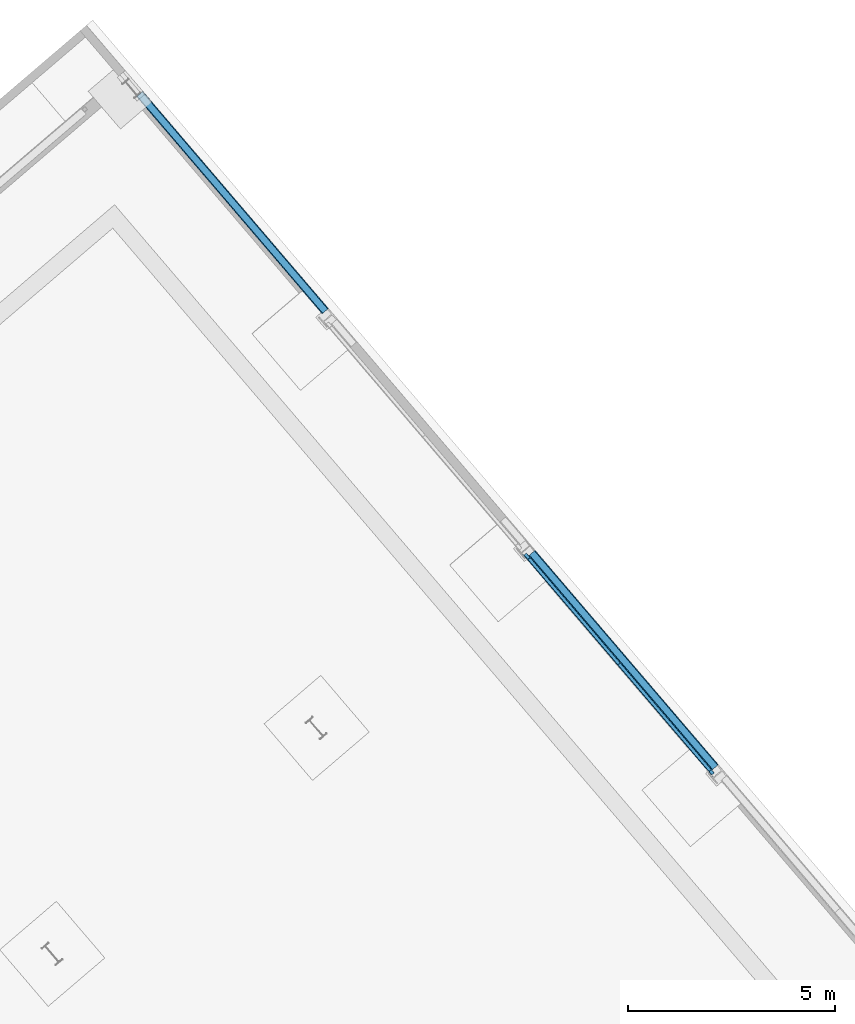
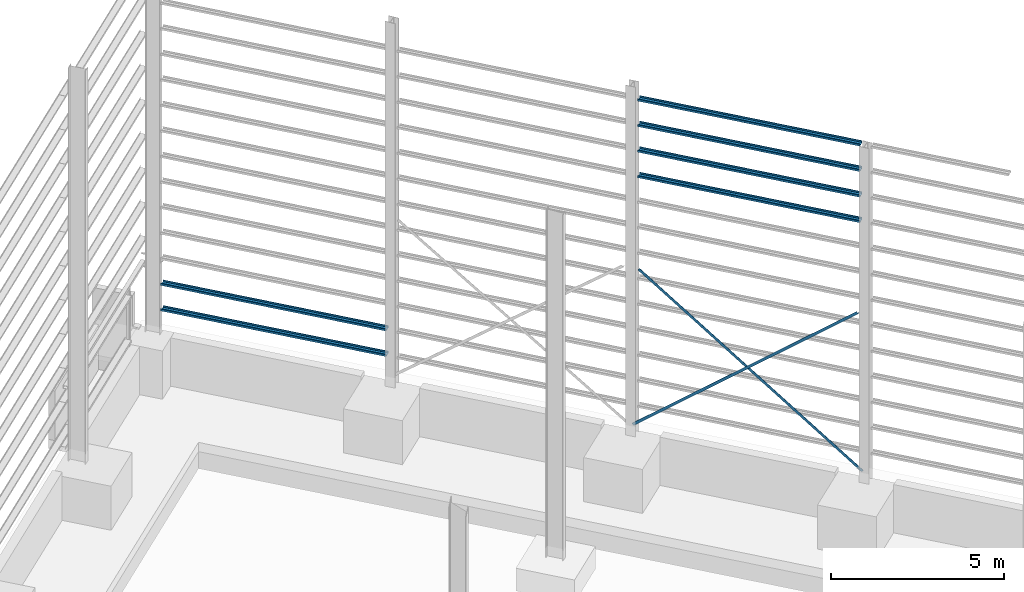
# One storey, part 31 of 41: 8 beams, 2 elements without a shape of their own.
"""IFC2X3 building model written with IfcOpenShell, lengths in millimetres."""

from ifc_helpers import new_model, entity, si_unit, converted_unit, derived_unit, direction, frame, frame_2d, origin, place, context, subcontext, project, spatial, polyline, circle_curve, parameter, trimmed, segment, composite_curve, outline, extrude, material, type_object, element, aggregate, save


model = new_model("IFC2X3")

# Units and contexts
model_context = context("Model", 3, precision=0.01, world=origin(), true_north=direction((6.123031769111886e-17, 1.0)))
body_context = subcontext(model_context, "Body", "Model", "MODEL_VIEW")
ifc_project = project(units=[si_unit("LENGTHUNIT", "METRE", prefix="MILLI"), si_unit("AREAUNIT", "SQUARE_METRE"), si_unit("VOLUMEUNIT", "CUBIC_METRE"), converted_unit("PLANEANGLEUNIT", "DEGREE", entity("IfcRatioMeasure", 0.017453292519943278), si_unit("PLANEANGLEUNIT", "RADIAN"), dimensions=[0, 0, 0, 0, 0, 0, 0]), si_unit("MASSUNIT", "GRAM", prefix="KILO"), derived_unit("MASSDENSITYUNIT", [(si_unit("MASSUNIT", "GRAM", prefix="KILO"), 1), (si_unit("LENGTHUNIT", "METRE"), -3)]), derived_unit("MOMENTOFINERTIAUNIT", [(si_unit("LENGTHUNIT", "METRE"), 4)]), si_unit("TIMEUNIT", "SECOND"), si_unit("FREQUENCYUNIT", "HERTZ"), si_unit("THERMODYNAMICTEMPERATUREUNIT", "DEGREE_CELSIUS"), derived_unit("THERMALTRANSMITTANCEUNIT", [(si_unit("MASSUNIT", "GRAM", prefix="KILO"), 1), (si_unit("THERMODYNAMICTEMPERATUREUNIT", "KELVIN"), -1), (si_unit("TIMEUNIT", "SECOND"), -3)]), derived_unit("VOLUMETRICFLOWRATEUNIT", [(si_unit("LENGTHUNIT", "METRE"), 3), (si_unit("TIMEUNIT", "SECOND"), -1)]), derived_unit("MASSFLOWRATEUNIT", [(si_unit("MASSUNIT", "GRAM", prefix="KILO"), 1), (si_unit("TIMEUNIT", "SECOND"), -1)]), derived_unit("ROTATIONALFREQUENCYUNIT", [(si_unit("TIMEUNIT", "SECOND"), -1)]), si_unit("ELECTRICCURRENTUNIT", "AMPERE"), si_unit("ELECTRICVOLTAGEUNIT", "VOLT"), si_unit("POWERUNIT", "WATT"), si_unit("FORCEUNIT", "NEWTON", prefix="KILO"), si_unit("ILLUMINANCEUNIT", "LUX"), si_unit("LUMINOUSFLUXUNIT", "LUMEN"), si_unit("LUMINOUSINTENSITYUNIT", "CANDELA"), derived_unit("USERDEFINED", [(si_unit("MASSUNIT", "GRAM", prefix="KILO"), -1), (si_unit("LENGTHUNIT", "METRE"), -2), (si_unit("TIMEUNIT", "SECOND"), 3), (si_unit("LUMINOUSFLUXUNIT", "LUMEN"), 1)]), derived_unit("SOUNDPOWERUNIT", [(si_unit("MASSUNIT", "GRAM", prefix="KILO"), 1), (si_unit("LENGTHUNIT", "METRE"), 2), (si_unit("TIMEUNIT", "SECOND"), -3)]), derived_unit("LINEARVELOCITYUNIT", [(si_unit("LENGTHUNIT", "METRE"), 1), (si_unit("TIMEUNIT", "SECOND"), -1)]), si_unit("PRESSUREUNIT", "PASCAL"), derived_unit("USERDEFINED", [(si_unit("LENGTHUNIT", "METRE"), -2), (si_unit("MASSUNIT", "GRAM", prefix="KILO"), 1), (si_unit("TIMEUNIT", "SECOND"), -2)]), derived_unit("LINEARFORCEUNIT", [(si_unit("MASSUNIT", "GRAM", prefix="KILO"), 1), (si_unit("LENGTHUNIT", "METRE"), 1), (si_unit("TIMEUNIT", "SECOND"), -2), (si_unit("LENGTHUNIT", "METRE"), -1)]), derived_unit("PLANARFORCEUNIT", [(si_unit("MASSUNIT", "GRAM", prefix="KILO"), 1), (si_unit("LENGTHUNIT", "METRE"), 1), (si_unit("TIMEUNIT", "SECOND"), -2), (si_unit("LENGTHUNIT", "METRE"), -2)])], contexts=[model_context])

# Site, building, storey
site_placement = place(None, frame((962.4174930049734, -6014.433753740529, 0.0), z_axis=(0.0, 0.0, 1.0), x_axis=(0.7601792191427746, 0.649713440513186, 0.0)))
site = spatial("IfcSite", under=ifc_project, at=site_placement, Name="Default", CompositionType="ELEMENT")
building_placement = place(site_placement, origin())
building = spatial("IfcBuilding", under=site, at=building_placement, CompositionType="ELEMENT")
storey_placement = place(building_placement, origin())
storey = spatial("IfcBuildingStorey", under=building, at=storey_placement, Name="Datum", CompositionType="ELEMENT", Elevation=0.0)

# Beams
ifc_material_1 = material(Name="Metal - Steel - 300 MPa")
beam_type_1 = type_object("IfcBeamType", Name="ADSK_AU_EA-Equal Angles (AS 3679_1):90x90x10EA", PredefinedType="NOTDEFINED")
beam_1_placement = place(storey_placement, frame((185683.36020470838, -18131.098902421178, 5622.635786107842), z_axis=(0.0, 0.6272703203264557, 0.7788016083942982), x_axis=(0.0, 0.7788016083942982, -0.6272703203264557)))
element("IfcBeam", 1, at=beam_1_placement, inside=storey, type_object=beam_type_1, material=ifc_material_1, Name="ADSK_AU_EA-Equal Angles (AS 3679_1):90x90x10EA", ObjectType="ADSK_AU_EA-Equal Angles (AS 3679_1):90x90x10EA", context=body_context, shape_type="SweptSolid", body=[
    extrude(outline(composite_curve([segment(polyline([(29.222222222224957, -55.777777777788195), (34.22222222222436, -55.777777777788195)]), True, "CONTINUOUS"), segment(polyline([(34.22222222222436, -55.777777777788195), (34.22222222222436, 34.222222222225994)]), True, "CONTINUOUS"), segment(polyline([(34.22222222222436, 34.222222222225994), (-55.777777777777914, 34.222222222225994)]), True, "CONTINUOUS"), segment(polyline([(-55.77777777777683, 34.222222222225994), (-55.777777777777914, 29.2222222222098)]), True, "CONTINUOUS"), segment(trimmed(circle_curve(frame_2d((-50.77777777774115, 29.222222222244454), x_axis=(-1.0, 0.0)), 5.000000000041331), [parameter(0.0)], [parameter(89.99999999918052)], True, "PARAMETER"), True, "CONTINUOUS"), segment(polyline([(-50.77777777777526, 24.222222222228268), (16.2222222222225, 24.222222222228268)]), True, "CONTINUOUS"), segment(trimmed(circle_curve(frame_2d((16.22222222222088, 16.222222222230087), x_axis=(0.0, 1.0)), 8.000000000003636), [parameter(270.0000000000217)], [parameter(0.0)], True, "PARAMETER"), False, "CONTINUOUS"), segment(polyline([(24.222222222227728, 16.222222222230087), (24.222222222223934, -50.77777777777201)]), True, "CONTINUOUS"), segment(trimmed(circle_curve(frame_2d((29.222222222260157, -50.77777777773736), x_axis=(-1.0, 0.0)), 5.000000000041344), [parameter(0.0)], [parameter(89.99999999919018)], True, "PARAMETER"), True, "CONTINUOUS")], self_intersect=False)), frame((0.0, -8.522222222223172, -55.777777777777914), z_axis=(1.0, 0.0, 0.0), x_axis=(0.0, 0.0, -1.0)), (0.0, 0.0, 1.0), 8833.2),
])
beam_2_placement = place(storey_placement, frame((185683.36020470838, -11489.283445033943, 5597.543005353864), z_axis=(0.0, -0.6270766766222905, 0.7789575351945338), x_axis=(0.0, -0.7789575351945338, -0.6270766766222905)))
element("IfcBeam", 2, at=beam_2_placement, inside=storey, type_object=beam_type_1, material=ifc_material_1, Name="ADSK_AU_EA-Equal Angles (AS 3679_1):90x90x10EA", ObjectType="ADSK_AU_EA-Equal Angles (AS 3679_1):90x90x10EA", context=body_context, shape_type="SweptSolid", body=[
    extrude(outline(composite_curve([segment(polyline([(-55.77777777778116, -34.222222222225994), (34.22222222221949, -34.222222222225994)]), True, "CONTINUOUS"), segment(polyline([(34.22222222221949, -34.222222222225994), (34.22222222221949, 55.777777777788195)]), True, "CONTINUOUS"), segment(polyline([(34.22222222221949, 55.777777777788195), (29.22222222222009, 55.777777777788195)]), True, "CONTINUOUS"), segment(trimmed(circle_curve(frame_2d((29.22222222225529, 50.77777777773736), x_axis=(0.0, 1.0)), 5.000000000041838), [parameter(0.0)], [parameter(89.99999999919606)], True, "PARAMETER"), True, "CONTINUOUS"), segment(polyline([(24.222222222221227, 50.77777777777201), (24.222222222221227, -16.222222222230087)]), True, "CONTINUOUS"), segment(trimmed(circle_curve(frame_2d((16.222222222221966, -16.222222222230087), x_axis=(1.0, 0.0)), 7.99999999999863), [parameter(269.99999999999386)], [parameter(0.0)], True, "PARAMETER"), False, "CONTINUOUS"), segment(polyline([(16.222222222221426, -24.222222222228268), (-50.77777777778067, -24.222222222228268)]), True, "CONTINUOUS"), segment(trimmed(circle_curve(frame_2d((-50.77777777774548, -29.222222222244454), x_axis=(0.0, 1.0)), 5.00000000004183), [parameter(0.0)], [parameter(89.99999999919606)], True, "PARAMETER"), True, "CONTINUOUS"), segment(polyline([(-55.77777777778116, -29.2222222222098), (-55.77777777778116, -34.222222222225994)]), True, "CONTINUOUS")], self_intersect=False)), frame((11.728956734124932, 8.522222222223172, -55.7777777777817), z_axis=(1.0, 0.0, 0.0), x_axis=(0.0, 0.0, -1.0)), (0.0, 0.0, 1.0), 8786.271043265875),
])

# Assembly, beams
assembly_1_placement = place(building_placement, origin())
assembly_1 = element("IfcElementAssembly", 3, at=assembly_1_placement, inside=storey, Name="Structural Beam System:Structural Beam System 1", ObjectType="Structural Beam System:Structural Beam System 1", AssemblyPlace="NOTDEFINED", PredefinedType="BEAM_GRID")
ifc_material_2 = material(Name="Metal - Light Gauge")
beam_type_2 = type_object("IfcBeamType", Name="ADSK_AUS_Light Gauge-Joists:C20015", PredefinedType="NOTDEFINED")
beam_3_placement = place(building_placement, frame((185748.56020470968, -18217.31558212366, 11405.616355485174), z_axis=(0.0, 0.0, 1.0), x_axis=(0.0, 1.0, 0.0)))
beam_3 = element("IfcBeam", 4, at=beam_3_placement, type_object=beam_type_2, material=ifc_material_2, Name="ADSK_AUS_Light Gauge-Joists:C20015", ObjectType="ADSK_AUS_Light Gauge-Joists:C20015", context=body_context, shape_type="SweptSolid", body=[
    extrude(outline(composite_curve([segment(polyline([(-25.691849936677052, -101.50000000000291), (39.491849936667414, -101.50000000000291)]), True, "CONTINUOUS"), segment(trimmed(circle_curve(frame_2d((39.4918499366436, -98.8418499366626), x_axis=(0.0, -1.0)), 2.6581500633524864), [parameter(0.0)], [parameter(89.99999999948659)], True, "PARAMETER"), True, "CONTINUOUS"), segment(polyline([(42.149999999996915, -98.8418499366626), (42.149999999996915, 98.84184993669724)]), True, "CONTINUOUS"), segment(trimmed(circle_curve(frame_2d((39.4918499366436, 98.84184993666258), x_axis=(1.0, 0.0)), 2.6581500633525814), [parameter(0.0)], [parameter(89.99999999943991)], True, "PARAMETER"), True, "CONTINUOUS"), segment(polyline([(39.49184993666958, 101.50000000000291), (-25.691849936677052, 101.50000000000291)]), True, "CONTINUOUS"), segment(trimmed(circle_curve(frame_2d((-25.69184993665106, 98.84184993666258), x_axis=(0.0, 1.0)), 2.6581500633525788), [parameter(0.0)], [parameter(89.99999999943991)], True, "PARAMETER"), True, "CONTINUOUS"), segment(polyline([(-28.35000000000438, 98.84184993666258), (-28.35000000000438, 80.0)]), True, "CONTINUOUS"), segment(polyline([(-28.35000000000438, 80.0), (-26.85000000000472, 80.0)]), True, "CONTINUOUS"), segment(polyline([(-26.85000000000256, 80.0), (-26.85000000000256, 98.42934993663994)]), True, "CONTINUOUS"), segment(trimmed(circle_curve(frame_2d((-25.279349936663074, 98.4293499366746), x_axis=(-1.0, 0.0)), 1.5706500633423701), [parameter(270.00000000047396)], [parameter(0.0)], True, "PARAMETER"), False, "CONTINUOUS"), segment(polyline([(-25.279349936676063, 100.0), (39.07934993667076, 100.0)]), True, "CONTINUOUS"), segment(trimmed(circle_curve(frame_2d((39.079349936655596, 98.4293499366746), x_axis=(0.0, 1.0)), 1.5706500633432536), [parameter(270.0000000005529)], [parameter(0.0)], True, "PARAMETER"), False, "CONTINUOUS"), segment(polyline([(40.649999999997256, 98.4293499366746), (40.649999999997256, -98.4293499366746)]), True, "CONTINUOUS"), segment(trimmed(circle_curve(frame_2d((39.079349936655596, -98.4293499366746), x_axis=(1.0, 0.0)), 1.5706500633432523), [parameter(270.0000000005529)], [parameter(0.0)], True, "PARAMETER"), False, "CONTINUOUS"), segment(polyline([(39.07934993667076, -100.0), (-25.279349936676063, -100.0)]), True, "CONTINUOUS"), segment(trimmed(circle_curve(frame_2d((-25.2793499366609, -98.4293499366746), x_axis=(0.0, -1.0)), 1.570650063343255), [parameter(270.0000000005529)], [parameter(0.0)], True, "PARAMETER"), False, "CONTINUOUS"), segment(polyline([(-26.85000000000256, -98.4293499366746), (-26.85000000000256, -80.0)]), True, "CONTINUOUS"), segment(polyline([(-26.85000000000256, -80.0), (-28.35000000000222, -80.0)]), True, "CONTINUOUS"), segment(polyline([(-28.35000000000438, -80.0), (-28.35000000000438, -98.84184993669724)]), True, "CONTINUOUS"), segment(trimmed(circle_curve(frame_2d((-25.691849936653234, -98.8418499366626), x_axis=(-1.0, 0.0)), 2.658150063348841), [parameter(0.0)], [parameter(89.99999999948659)], True, "PARAMETER"), True, "CONTINUOUS")], self_intersect=False)), frame((12.943749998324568, -101.50000000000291, 42.149999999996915), z_axis=(1.0, 0.0, 0.0), x_axis=(0.0, 0.0, -1.0)), (0.0, 0.0, 1.0), 6816.000000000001),
])
beam_4_placement = place(building_placement, frame((185748.56020470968, -18217.31558212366, 10505.616355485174), z_axis=(0.0, 0.0, 1.0), x_axis=(0.0, 1.0, 0.0)))
beam_4 = element("IfcBeam", 5, at=beam_4_placement, type_object=beam_type_2, material=ifc_material_2, Name="ADSK_AUS_Light Gauge-Joists:C20015", ObjectType="ADSK_AUS_Light Gauge-Joists:C20015", context=body_context, shape_type="SweptSolid", body=[
    extrude(outline(composite_curve([segment(polyline([(-25.691849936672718, -101.50000000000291), (39.49184993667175, -101.50000000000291)]), True, "CONTINUOUS"), segment(trimmed(circle_curve(frame_2d((39.49184993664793, -98.8418499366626), x_axis=(0.0, -1.0)), 2.6581500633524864), [parameter(0.0)], [parameter(89.99999999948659)], True, "PARAMETER"), True, "CONTINUOUS"), segment(polyline([(42.15000000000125, -98.8418499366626), (42.15000000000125, 98.84184993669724)]), True, "CONTINUOUS"), segment(trimmed(circle_curve(frame_2d((39.49184993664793, 98.84184993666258), x_axis=(1.0, 0.0)), 2.6581500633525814), [parameter(0.0)], [parameter(89.99999999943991)], True, "PARAMETER"), True, "CONTINUOUS"), segment(polyline([(39.491849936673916, 101.50000000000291), (-25.691849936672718, 101.50000000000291)]), True, "CONTINUOUS"), segment(trimmed(circle_curve(frame_2d((-25.691849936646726, 98.84184993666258), x_axis=(0.0, 1.0)), 2.6581500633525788), [parameter(0.0)], [parameter(89.99999999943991)], True, "PARAMETER"), True, "CONTINUOUS"), segment(polyline([(-28.350000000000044, 98.84184993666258), (-28.350000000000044, 80.0)]), True, "CONTINUOUS"), segment(polyline([(-28.350000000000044, 80.0), (-26.850000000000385, 80.0)]), True, "CONTINUOUS"), segment(polyline([(-26.849999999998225, 80.0), (-26.849999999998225, 98.42934993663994)]), True, "CONTINUOUS"), segment(trimmed(circle_curve(frame_2d((-25.27934993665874, 98.4293499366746), x_axis=(-1.0, 0.0)), 1.5706500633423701), [parameter(270.00000000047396)], [parameter(0.0)], True, "PARAMETER"), False, "CONTINUOUS"), segment(polyline([(-25.27934993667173, 100.0), (39.079349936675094, 100.0)]), True, "CONTINUOUS"), segment(trimmed(circle_curve(frame_2d((39.07934993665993, 98.4293499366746), x_axis=(0.0, 1.0)), 1.5706500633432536), [parameter(270.0000000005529)], [parameter(0.0)], True, "PARAMETER"), False, "CONTINUOUS"), segment(polyline([(40.65000000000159, 98.4293499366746), (40.65000000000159, -98.4293499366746)]), True, "CONTINUOUS"), segment(trimmed(circle_curve(frame_2d((39.07934993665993, -98.4293499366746), x_axis=(1.0, 0.0)), 1.5706500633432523), [parameter(270.0000000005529)], [parameter(0.0)], True, "PARAMETER"), False, "CONTINUOUS"), segment(polyline([(39.079349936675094, -100.0), (-25.27934993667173, -100.0)]), True, "CONTINUOUS"), segment(trimmed(circle_curve(frame_2d((-25.279349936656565, -98.4293499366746), x_axis=(0.0, -1.0)), 1.570650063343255), [parameter(270.0000000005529)], [parameter(0.0)], True, "PARAMETER"), False, "CONTINUOUS"), segment(polyline([(-26.849999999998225, -98.4293499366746), (-26.849999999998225, -80.0)]), True, "CONTINUOUS"), segment(polyline([(-26.849999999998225, -80.0), (-28.349999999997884, -80.0)]), True, "CONTINUOUS"), segment(polyline([(-28.350000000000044, -80.0), (-28.350000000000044, -98.84184993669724)]), True, "CONTINUOUS"), segment(trimmed(circle_curve(frame_2d((-25.6918499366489, -98.8418499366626), x_axis=(-1.0, 0.0)), 2.658150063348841), [parameter(0.0)], [parameter(89.99999999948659)], True, "PARAMETER"), True, "CONTINUOUS")], self_intersect=False)), frame((12.943749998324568, -101.50000000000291, 42.15000000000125), z_axis=(1.0, 0.0, 0.0), x_axis=(0.0, 0.0, -1.0)), (0.0, 0.0, 1.0), 6816.000000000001),
])
beam_5_placement = place(building_placement, frame((185748.56020470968, -18217.31558212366, 9605.616355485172), z_axis=(0.0, 0.0, 1.0), x_axis=(0.0, 1.0, 0.0)))
beam_5 = element("IfcBeam", 6, at=beam_5_placement, type_object=beam_type_2, material=ifc_material_2, Name="ADSK_AUS_Light Gauge-Joists:C20015", ObjectType="ADSK_AUS_Light Gauge-Joists:C20015", context=body_context, shape_type="SweptSolid", body=[
    extrude(outline(composite_curve([segment(polyline([(-25.691849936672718, -101.50000000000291), (39.49184993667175, -101.50000000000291)]), True, "CONTINUOUS"), segment(trimmed(circle_curve(frame_2d((39.49184993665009, -98.8418499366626), x_axis=(0.0, -1.0)), 2.658150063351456), [parameter(0.0)], [parameter(89.99999999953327)], True, "PARAMETER"), True, "CONTINUOUS"), segment(polyline([(42.15000000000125, -98.8418499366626), (42.15000000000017, 98.84184993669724)]), True, "CONTINUOUS"), segment(trimmed(circle_curve(frame_2d((39.49184993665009, 98.84184993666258), x_axis=(1.0, 0.0)), 2.658150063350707), [parameter(0.0)], [parameter(89.99999999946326)], True, "PARAMETER"), True, "CONTINUOUS"), segment(polyline([(39.491849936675, 101.50000000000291), (-25.691849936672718, 101.50000000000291)]), True, "CONTINUOUS"), segment(trimmed(circle_curve(frame_2d((-25.691849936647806, 98.84184993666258), x_axis=(0.0, 1.0)), 2.658150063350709), [parameter(0.0)], [parameter(89.99999999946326)], True, "PARAMETER"), True, "CONTINUOUS"), segment(polyline([(-28.349999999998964, 98.84184993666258), (-28.349999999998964, 80.0)]), True, "CONTINUOUS"), segment(polyline([(-28.349999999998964, 80.0), (-26.849999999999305, 80.0)]), True, "CONTINUOUS"), segment(polyline([(-26.849999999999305, 80.0), (-26.849999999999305, 98.42934993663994)]), True, "CONTINUOUS"), segment(trimmed(circle_curve(frame_2d((-25.2793499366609, 98.4293499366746), x_axis=(-1.0, 0.0)), 1.570650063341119), [parameter(270.00000000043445)], [parameter(0.0)], True, "PARAMETER"), False, "CONTINUOUS"), segment(polyline([(-25.27934993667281, 100.0), (39.079349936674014, 100.0)]), True, "CONTINUOUS"), segment(trimmed(circle_curve(frame_2d((39.079349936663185, 98.4293499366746), x_axis=(0.0, 1.0)), 1.570650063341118), [parameter(270.00000000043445)], [parameter(0.0)], True, "PARAMETER"), False, "CONTINUOUS"), segment(polyline([(40.65000000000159, 98.4293499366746), (40.65000000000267, -98.4293499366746)]), True, "CONTINUOUS"), segment(trimmed(circle_curve(frame_2d((39.079349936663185, -98.4293499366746), x_axis=(1.0, 0.0)), 1.570650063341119), [parameter(270.00000000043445)], [parameter(0.0)], True, "PARAMETER"), False, "CONTINUOUS"), segment(polyline([(39.079349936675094, -100.0), (-25.27934993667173, -100.0)]), True, "CONTINUOUS"), segment(trimmed(circle_curve(frame_2d((-25.2793499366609, -98.4293499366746), x_axis=(0.0, -1.0)), 1.570650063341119), [parameter(270.00000000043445)], [parameter(0.0)], True, "PARAMETER"), False, "CONTINUOUS"), segment(polyline([(-26.849999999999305, -98.4293499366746), (-26.849999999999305, -80.0)]), True, "CONTINUOUS"), segment(polyline([(-26.849999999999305, -80.0), (-28.349999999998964, -80.0)]), True, "CONTINUOUS"), segment(polyline([(-28.349999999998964, -80.0), (-28.349999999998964, -98.84184993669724)]), True, "CONTINUOUS"), segment(trimmed(circle_curve(frame_2d((-25.691849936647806, -98.8418499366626), x_axis=(-1.0, 0.0)), 2.6581500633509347), [parameter(0.0)], [parameter(89.99999999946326)], True, "PARAMETER"), True, "CONTINUOUS")], self_intersect=False)), frame((12.943749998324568, -101.50000000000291, 42.15000000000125), z_axis=(1.0, 0.0, 0.0), x_axis=(0.0, 0.0, -1.0)), (0.0, 0.0, 1.0), 6816.000000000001),
])
beam_6_placement = place(building_placement, frame((185748.56020470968, -18217.31558212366, 8705.616355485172), z_axis=(0.0, 0.0, 1.0), x_axis=(0.0, 1.0, 0.0)))
beam_6 = element("IfcBeam", 7, at=beam_6_placement, type_object=beam_type_2, material=ifc_material_2, Name="ADSK_AUS_Light Gauge-Joists:C20015", ObjectType="ADSK_AUS_Light Gauge-Joists:C20015", context=body_context, shape_type="SweptSolid", body=[
    extrude(outline(composite_curve([segment(polyline([(-25.691849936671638, -101.50000000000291), (39.49184993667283, -101.50000000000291)]), True, "CONTINUOUS"), segment(trimmed(circle_curve(frame_2d((39.49184993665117, -98.8418499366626), x_axis=(0.0, -1.0)), 2.658150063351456), [parameter(0.0)], [parameter(89.99999999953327)], True, "PARAMETER"), True, "CONTINUOUS"), segment(polyline([(42.15000000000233, -98.8418499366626), (42.15000000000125, 98.84184993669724)]), True, "CONTINUOUS"), segment(trimmed(circle_curve(frame_2d((39.49184993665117, 98.84184993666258), x_axis=(1.0, 0.0)), 2.658150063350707), [parameter(0.0)], [parameter(89.99999999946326)], True, "PARAMETER"), True, "CONTINUOUS"), segment(polyline([(39.49184993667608, 101.50000000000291), (-25.691849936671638, 101.50000000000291)]), True, "CONTINUOUS"), segment(trimmed(circle_curve(frame_2d((-25.691849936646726, 98.84184993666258), x_axis=(0.0, 1.0)), 2.658150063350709), [parameter(0.0)], [parameter(89.99999999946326)], True, "PARAMETER"), True, "CONTINUOUS"), segment(polyline([(-28.349999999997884, 98.84184993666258), (-28.349999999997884, 80.0)]), True, "CONTINUOUS"), segment(polyline([(-28.349999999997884, 80.0), (-26.849999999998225, 80.0)]), True, "CONTINUOUS"), segment(polyline([(-26.849999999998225, 80.0), (-26.849999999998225, 98.42934993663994)]), True, "CONTINUOUS"), segment(trimmed(circle_curve(frame_2d((-25.27934993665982, 98.4293499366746), x_axis=(-1.0, 0.0)), 1.570650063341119), [parameter(270.00000000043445)], [parameter(0.0)], True, "PARAMETER"), False, "CONTINUOUS"), segment(polyline([(-25.27934993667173, 100.0), (39.079349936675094, 100.0)]), True, "CONTINUOUS"), segment(trimmed(circle_curve(frame_2d((39.079349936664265, 98.4293499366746), x_axis=(0.0, 1.0)), 1.570650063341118), [parameter(270.00000000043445)], [parameter(0.0)], True, "PARAMETER"), False, "CONTINUOUS"), segment(polyline([(40.65000000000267, 98.4293499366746), (40.65000000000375, -98.4293499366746)]), True, "CONTINUOUS"), segment(trimmed(circle_curve(frame_2d((39.079349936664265, -98.4293499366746), x_axis=(1.0, 0.0)), 1.570650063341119), [parameter(270.00000000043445)], [parameter(0.0)], True, "PARAMETER"), False, "CONTINUOUS"), segment(polyline([(39.079349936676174, -100.0), (-25.27934993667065, -100.0)]), True, "CONTINUOUS"), segment(trimmed(circle_curve(frame_2d((-25.27934993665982, -98.4293499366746), x_axis=(0.0, -1.0)), 1.570650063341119), [parameter(270.00000000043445)], [parameter(0.0)], True, "PARAMETER"), False, "CONTINUOUS"), segment(polyline([(-26.849999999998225, -98.4293499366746), (-26.849999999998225, -80.0)]), True, "CONTINUOUS"), segment(polyline([(-26.849999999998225, -80.0), (-28.349999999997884, -80.0)]), True, "CONTINUOUS"), segment(polyline([(-28.349999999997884, -80.0), (-28.349999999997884, -98.84184993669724)]), True, "CONTINUOUS"), segment(trimmed(circle_curve(frame_2d((-25.691849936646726, -98.8418499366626), x_axis=(-1.0, 0.0)), 2.6581500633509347), [parameter(0.0)], [parameter(89.99999999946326)], True, "PARAMETER"), True, "CONTINUOUS")], self_intersect=False)), frame((12.943749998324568, -101.50000000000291, 42.15000000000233), z_axis=(1.0, 0.0, 0.0), x_axis=(0.0, 0.0, -1.0)), (0.0, 0.0, 1.0), 6816.000000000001),
])
aggregate(assembly_1, [beam_3, beam_4, beam_5, beam_6])

assembly_2_placement = place(building_placement, origin())
assembly_2 = element("IfcElementAssembly", 8, at=assembly_2_placement, inside=storey, Name="Structural Beam System:Structural Beam System 1", ObjectType="Structural Beam System:Structural Beam System 1", AssemblyPlace="NOTDEFINED", PredefinedType="BEAM_GRID")
beam_7_placement = place(building_placement, frame((185748.56020470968, -3714.0905821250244, 1502.5035827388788), z_axis=(0.0, 0.0, 1.0), x_axis=(0.0, 1.0, 0.0)))
beam_7 = element("IfcBeam", 9, at=beam_7_placement, type_object=beam_type_2, material=ifc_material_2, Name="ADSK_AUS_Light Gauge-Joists:C20015", ObjectType="ADSK_AUS_Light Gauge-Joists:C20015", context=body_context, shape_type="SweptSolid", body=[
    extrude(outline(composite_curve([segment(polyline([(-25.691849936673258, -101.50000000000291), (39.49184993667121, -101.50000000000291)]), True, "CONTINUOUS"), segment(trimmed(circle_curve(frame_2d((39.49184993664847, -98.8418499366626), x_axis=(0.0, -1.0)), 2.658150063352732), [parameter(0.0)], [parameter(89.99999999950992)], True, "PARAMETER"), True, "CONTINUOUS"), segment(polyline([(42.15000000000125, -98.8418499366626), (42.15000000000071, 98.84184993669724)]), True, "CONTINUOUS"), segment(trimmed(circle_curve(frame_2d((39.49184993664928, 98.84184993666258), x_axis=(1.0, 0.0)), 2.6581500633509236), [parameter(0.0)], [parameter(89.99999999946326)], True, "PARAMETER"), True, "CONTINUOUS"), segment(polyline([(39.491849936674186, 101.50000000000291), (-25.691849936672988, 101.50000000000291)]), True, "CONTINUOUS"), segment(trimmed(circle_curve(frame_2d((-25.691849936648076, 98.84184993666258), x_axis=(0.0, 1.0)), 2.658150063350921), [parameter(0.0)], [parameter(89.99999999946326)], True, "PARAMETER"), True, "CONTINUOUS"), segment(polyline([(-28.349999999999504, 98.84184993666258), (-28.349999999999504, 80.0)]), True, "CONTINUOUS"), segment(polyline([(-28.349999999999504, 80.0), (-26.849999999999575, 80.0)]), True, "CONTINUOUS"), segment(polyline([(-26.849999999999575, 80.0), (-26.849999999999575, 98.42934993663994)]), True, "CONTINUOUS"), segment(trimmed(circle_curve(frame_2d((-25.27934993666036, 98.4293499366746), x_axis=(-1.0, 0.0)), 1.5706500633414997), [parameter(270.00000000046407)], [parameter(0.0)], True, "PARAMETER"), False, "CONTINUOUS"), segment(polyline([(-25.27934993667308, 100.0), (39.079349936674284, 100.0)]), True, "CONTINUOUS"), segment(trimmed(circle_curve(frame_2d((39.07934993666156, 98.4293499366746), x_axis=(0.0, 1.0)), 1.5706500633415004), [parameter(270.00000000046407)], [parameter(0.0)], True, "PARAMETER"), False, "CONTINUOUS"), segment(polyline([(40.65000000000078, 98.4293499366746), (40.65000000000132, -98.4293499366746)]), True, "CONTINUOUS"), segment(trimmed(circle_curve(frame_2d((39.0793499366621, -98.4293499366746), x_axis=(1.0, 0.0)), 1.5706500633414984), [parameter(270.00000000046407)], [parameter(0.0)], True, "PARAMETER"), False, "CONTINUOUS"), segment(polyline([(39.079349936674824, -100.0), (-25.27934993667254, -100.0)]), True, "CONTINUOUS"), segment(trimmed(circle_curve(frame_2d((-25.27934993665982, -98.4293499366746), x_axis=(0.0, -1.0)), 1.5706500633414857), [parameter(270.00000000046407)], [parameter(0.0)], True, "PARAMETER"), False, "CONTINUOUS"), segment(polyline([(-26.849999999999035, -98.4293499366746), (-26.849999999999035, -80.0)]), True, "CONTINUOUS"), segment(polyline([(-26.849999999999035, -80.0), (-28.349999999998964, -80.0)]), True, "CONTINUOUS"), segment(polyline([(-28.349999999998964, -80.0), (-28.349999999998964, -98.84184993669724)]), True, "CONTINUOUS"), segment(trimmed(circle_curve(frame_2d((-25.691849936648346, -98.8418499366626), x_axis=(-1.0, 0.0)), 2.6581500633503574), [parameter(0.0)], [parameter(89.99999999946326)], True, "PARAMETER"), True, "CONTINUOUS")], self_intersect=False)), frame((13.03124998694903, -101.50000000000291, 42.15000000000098), z_axis=(1.0, 0.0, 0.0), x_axis=(0.0, 0.0, -1.0)), (0.0, 0.0, 1.0), 6906.0),
])
beam_8_placement = place(building_placement, frame((185748.56020470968, -3714.0905821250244, 602.5035827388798), z_axis=(0.0, 0.0, 1.0), x_axis=(0.0, 1.0, 0.0)))
beam_8 = element("IfcBeam", 10, at=beam_8_placement, type_object=beam_type_2, material=ifc_material_2, Name="ADSK_AUS_Light Gauge-Joists:C20015", ObjectType="ADSK_AUS_Light Gauge-Joists:C20015", context=body_context, shape_type="SweptSolid", body=[
    extrude(outline(composite_curve([segment(polyline([(-25.69184993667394, -101.50000000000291), (39.4918499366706, -101.50000000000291)]), True, "CONTINUOUS"), segment(trimmed(circle_curve(frame_2d((39.49184993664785, -98.8418499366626), x_axis=(0.0, -1.0)), 2.658150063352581), [parameter(0.0)], [parameter(89.99999999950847)], True, "PARAMETER"), True, "CONTINUOUS"), segment(polyline([(42.15000000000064, -98.8418499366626), (42.15000000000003, 98.84184993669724)]), True, "CONTINUOUS"), segment(trimmed(circle_curve(frame_2d((39.49184993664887, 98.84184993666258), x_axis=(1.0, 0.0)), 2.6581500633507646), [parameter(0.0)], [parameter(89.99999999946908)], True, "PARAMETER"), True, "CONTINUOUS"), segment(polyline([(39.4918499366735, 101.50000000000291), (-25.691849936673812, 101.50000000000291)]), True, "CONTINUOUS"), segment(trimmed(circle_curve(frame_2d((-25.691849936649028, 98.84184993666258), x_axis=(0.0, 1.0)), 2.6581500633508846), [parameter(0.0)], [parameter(89.99999999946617)], True, "PARAMETER"), True, "CONTINUOUS"), segment(polyline([(-28.350000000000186, 98.84184993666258), (-28.350000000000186, 80.0)]), True, "CONTINUOUS"), segment(polyline([(-28.350000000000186, 80.0), (-26.850000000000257, 80.0)]), True, "CONTINUOUS"), segment(polyline([(-26.850000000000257, 80.0), (-26.850000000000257, 98.42934993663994)]), True, "CONTINUOUS"), segment(trimmed(circle_curve(frame_2d((-25.279349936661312, 98.4293499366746), x_axis=(-1.0, 0.0)), 1.5706500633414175), [parameter(270.0000000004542)], [parameter(0.0)], True, "PARAMETER"), False, "CONTINUOUS"), segment(polyline([(-25.27934993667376, 100.0), (39.0793499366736, 100.0)]), True, "CONTINUOUS"), segment(trimmed(circle_curve(frame_2d((39.079349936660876, 98.4293499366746), x_axis=(0.0, 1.0)), 1.5706500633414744), [parameter(270.0000000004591)], [parameter(0.0)], True, "PARAMETER"), False, "CONTINUOUS"), segment(polyline([(40.64999999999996, 98.4293499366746), (40.65000000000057, -98.4293499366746)]), True, "CONTINUOUS"), segment(trimmed(circle_curve(frame_2d((39.07934993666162, -98.4293499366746), x_axis=(1.0, 0.0)), 1.5706500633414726), [parameter(270.0000000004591)], [parameter(0.0)], True, "PARAMETER"), False, "CONTINUOUS"), segment(polyline([(39.079349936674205, -100.0), (-25.279349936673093, -100.0)]), True, "CONTINUOUS"), segment(trimmed(circle_curve(frame_2d((-25.279349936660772, -98.4293499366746), x_axis=(0.0, -1.0)), 1.5706500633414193), [parameter(270.0000000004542)], [parameter(0.0)], True, "PARAMETER"), False, "CONTINUOUS"), segment(polyline([(-26.849999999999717, -98.4293499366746), (-26.849999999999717, -80.0)]), True, "CONTINUOUS"), segment(polyline([(-26.849999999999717, -80.0), (-28.349999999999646, -80.0)]), True, "CONTINUOUS"), segment(polyline([(-28.349999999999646, -80.0), (-28.349999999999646, -98.84184993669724)]), True, "CONTINUOUS"), segment(trimmed(circle_curve(frame_2d((-25.6918499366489, -98.8418499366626), x_axis=(-1.0, 0.0)), 2.6581500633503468), [parameter(0.0)], [parameter(89.99999999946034)], True, "PARAMETER"), True, "CONTINUOUS")], self_intersect=False)), frame((13.03124998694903, -101.50000000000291, 42.1500000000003), z_axis=(1.0, 0.0, 0.0), x_axis=(0.0, 0.0, -1.0)), (0.0, 0.0, 1.0), 6906.0),
])
aggregate(assembly_2, [beam_7, beam_8])

save(model, "model.ifc")
